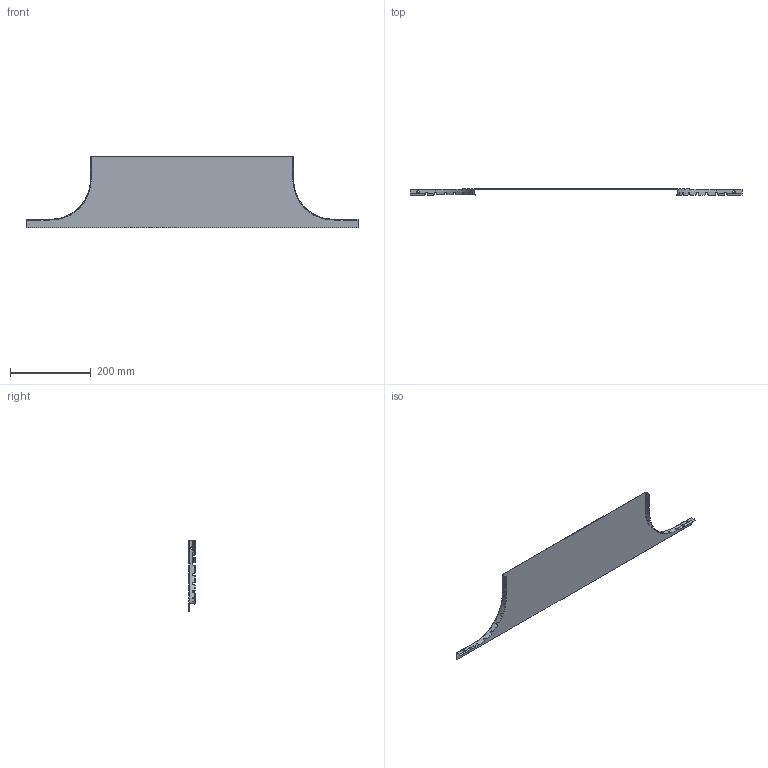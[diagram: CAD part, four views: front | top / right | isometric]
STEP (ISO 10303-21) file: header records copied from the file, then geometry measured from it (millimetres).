
FILE_DESCRIPTION (( 'STEP AP203' ), '1' );
FILE_NAME ('ERE_TAPA AS 500.step', '2023-07-27T18:56:29', ( '' ), ( '' ), 'SwSTEP 2.0', 'SolidWorks 2022', '' );
FILE_SCHEMA (( 'CONFIG_CONTROL_DESIGN' ));
Length unit declared in the file: millimetre
Products named in the file (1): ERE_TAPA AS 500
Bounding box: 820 x 15.01 x 177.8 mm (x, y, z)
Volume: 74769.4 mm3; surface area: 215241.8 mm2
Topology: 1 solids, 1 shells, 310 faces, 812 edges, 496 vertices
Faces by surface type: plane 138, bspline 94, cylinder 74, torus 4
Entity records: 17888 total; most frequent: CARTESIAN_POINT 11078, ORIENTED_EDGE 1624, DIRECTION 1067, EDGE_CURVE 812, VERTEX_POINT 496, AXIS2_PLACEMENT_3D 389, B_SPLINE_CURVE_WITH_KNOTS 351, FACE_OUTER_BOUND 310
